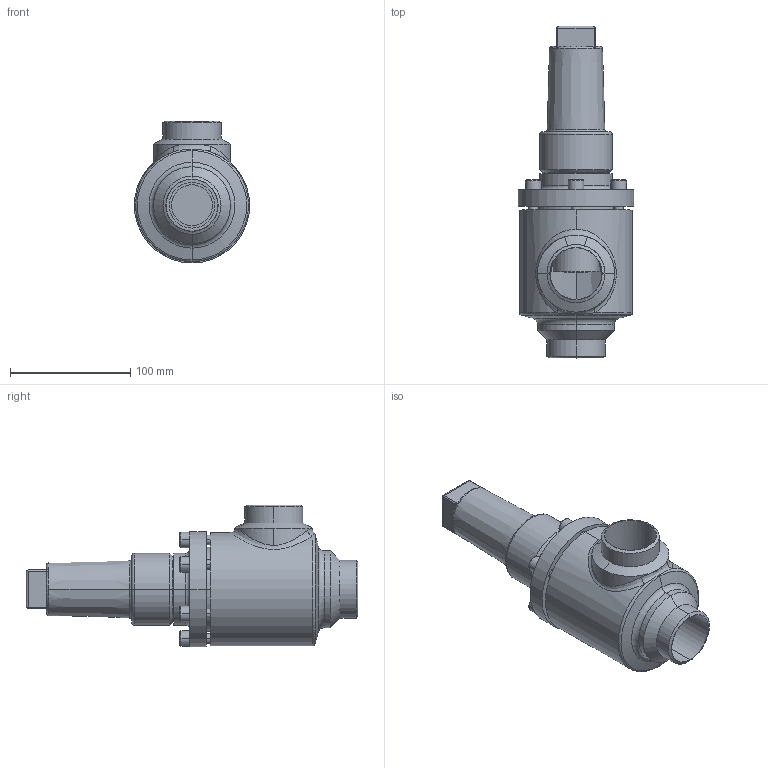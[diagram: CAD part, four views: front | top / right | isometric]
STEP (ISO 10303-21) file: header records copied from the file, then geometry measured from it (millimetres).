
FILE_DESCRIPTION (( 'STEP AP214' ), '1' );
FILE_NAME ('HRAR22400D14-DN040_R1_PS40.STEP', '2006-04-27T13:00:09', ( 'Herr Grams' ), ( 'AWP GmbH' ), 'SwSTEP 2.0', 'SolidWorks 2002296', '' );
FILE_SCHEMA (( 'AUTOMOTIVE_DESIGN' ));
Length unit declared in the file: millimetre
Products named in the file (6): HRAR22400D14-DN040_R1_PS40; AVR26300E15_Deck+Schr-DN40-50_Standard; Deckel26300E15-DN40-50_Standard; Zylinderschraube-DIN912_M 8x 25; Kappe16402_DN040-65_Standard; Gehäuse16400-DN040_Standard
Assembly tree (10 placements, depth 3):
  HRAR22400D14-DN040_R1_PS40
    AVR26300E15_Deck+Schr-DN40-50_Standard
      Zylinderschraube-DIN912_M 8x 25  x6
      Deckel26300E15-DN40-50_Standard
    Kappe16402_DN040-65_Standard
    Gehäuse16400-DN040_Standard
Bounding box: 96 x 276 x 118 mm (x, y, z)
Volume: 725587.4 mm3; surface area: 147365.6 mm2
Topology: 9 solids, 9 shells, 251 faces, 553 edges, 346 vertices
Faces by surface type: plane 93, cylinder 93, cone 35, torus 27, bspline 3
Entity records: 14785 total; most frequent: CARTESIAN_POINT 10497, DIRECTION 849, ORIENTED_EDGE 726, EDGE_CURVE 363, AXIS2_PLACEMENT_3D 361, VERTEX_POINT 226, EDGE_LOOP 193, CIRCLE 189
